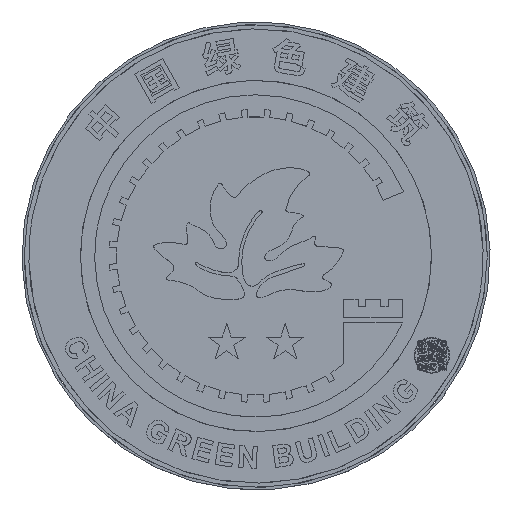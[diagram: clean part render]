
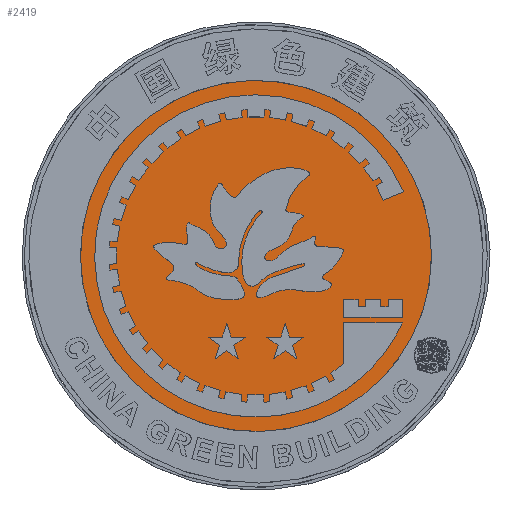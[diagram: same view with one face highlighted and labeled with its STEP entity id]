
A CAD part, top view. The second image highlights one B-rep face of the part: STEP entity #2419.
In plain terms, the highlighted planar face has unit normal (0, 0, 1).
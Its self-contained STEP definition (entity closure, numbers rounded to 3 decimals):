
#2419=ADVANCED_FACE('',(#4685),#32806,.T.);
#4685=FACE_OUTER_BOUND('',#6951,.T.);
#6951=EDGE_LOOP('',(#9359,#9360));
#9359=ORIENTED_EDGE('',*,*,#19387,.T.);
#9360=ORIENTED_EDGE('',*,*,#19390,.T.);
#19387=EDGE_CURVE('',#29458,#29460,#24433,.T.);
#19390=EDGE_CURVE('',#29460,#29458,#24436,.T.);
#24433=B_SPLINE_CURVE_WITH_KNOTS('',3,(#35473,#35474,#35475,#35476,#35477,
#35478,#35479,#35480,#35481,#35482,#35483,#35484,#35485),.UNSPECIFIED.,
 .F.,.F.,(4,3,3,3,4),(-9.,-8.,-7.,-6.,-5.),.UNSPECIFIED.);
#24436=B_SPLINE_CURVE_WITH_KNOTS('',3,(#35501,#35502,#35503,#35504,#35505,
#35506,#35507,#35508,#35509,#35510,#35511,#35512,#35513),.UNSPECIFIED.,
 .F.,.F.,(4,3,3,3,4),(-5.,-4.,-3.,-2.,-1.),.UNSPECIFIED.);
#29458=VERTEX_POINT('',#35455);
#29460=VERTEX_POINT('',#35457);
#32806=PLANE('',#33629);
#33629=AXIS2_PLACEMENT_3D('',#35427,#34435,$);
#34435=DIRECTION('',(0.,0.,1.));
#35427=CARTESIAN_POINT('',(10647.542,1974.069,3.333));
#35455=CARTESIAN_POINT('',(10490.753,1393.066,3.333));
#35457=CARTESIAN_POINT('',(10054.088,1804.835,3.333));
#35473=CARTESIAN_POINT('',(10490.753,1393.066,3.333));
#35474=CARTESIAN_POINT('',(10545.434,1451.058,3.333));
#35475=CARTESIAN_POINT('',(10574.725,1528.077,3.333));
#35476=CARTESIAN_POINT('',(10572.388,1607.745,3.333));
#35477=CARTESIAN_POINT('',(10570.051,1687.425,3.333));
#35478=CARTESIAN_POINT('',(10536.295,1762.598,3.333));
#35479=CARTESIAN_POINT('',(10478.303,1817.281,3.333));
#35480=CARTESIAN_POINT('',(10420.317,1871.968,3.333));
#35481=CARTESIAN_POINT('',(10343.292,1901.252,3.333));
#35482=CARTESIAN_POINT('',(10263.623,1898.916,3.333));
#35483=CARTESIAN_POINT('',(10183.944,1896.579,3.333));
#35484=CARTESIAN_POINT('',(10108.776,1862.827,3.333));
#35485=CARTESIAN_POINT('',(10054.088,1804.835,3.333));
#35501=CARTESIAN_POINT('',(10054.088,1804.835,3.333));
#35502=CARTESIAN_POINT('',(9999.406,1746.843,3.333));
#35503=CARTESIAN_POINT('',(9970.116,1669.827,3.333));
#35504=CARTESIAN_POINT('',(9972.453,1590.15,3.333));
#35505=CARTESIAN_POINT('',(9974.789,1510.477,3.333));
#35506=CARTESIAN_POINT('',(10008.542,1435.303,3.333));
#35507=CARTESIAN_POINT('',(10066.534,1380.616,3.333));
#35508=CARTESIAN_POINT('',(10124.526,1325.934,3.333));
#35509=CARTESIAN_POINT('',(10201.541,1296.65,3.333));
#35510=CARTESIAN_POINT('',(10281.218,1298.986,3.333));
#35511=CARTESIAN_POINT('',(10360.892,1301.323,3.333));
#35512=CARTESIAN_POINT('',(10436.065,1335.074,3.333));
#35513=CARTESIAN_POINT('',(10490.753,1393.066,3.333));
